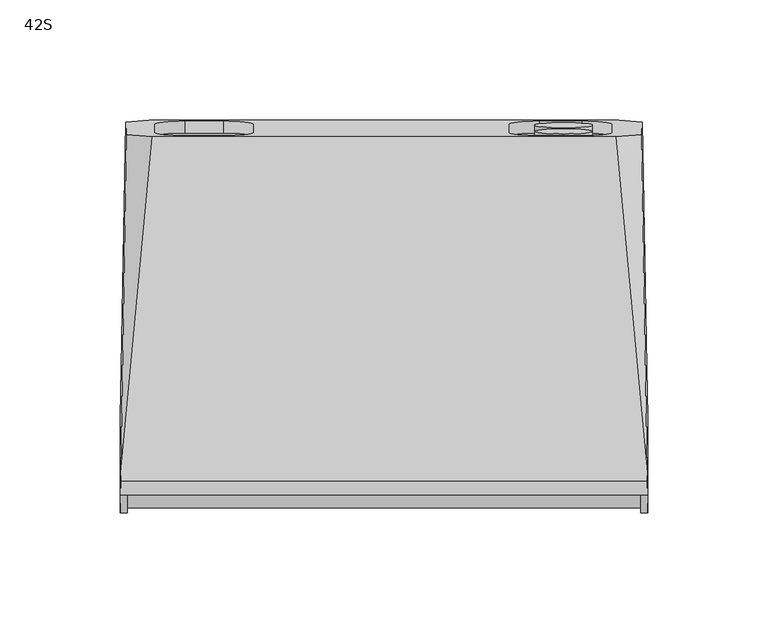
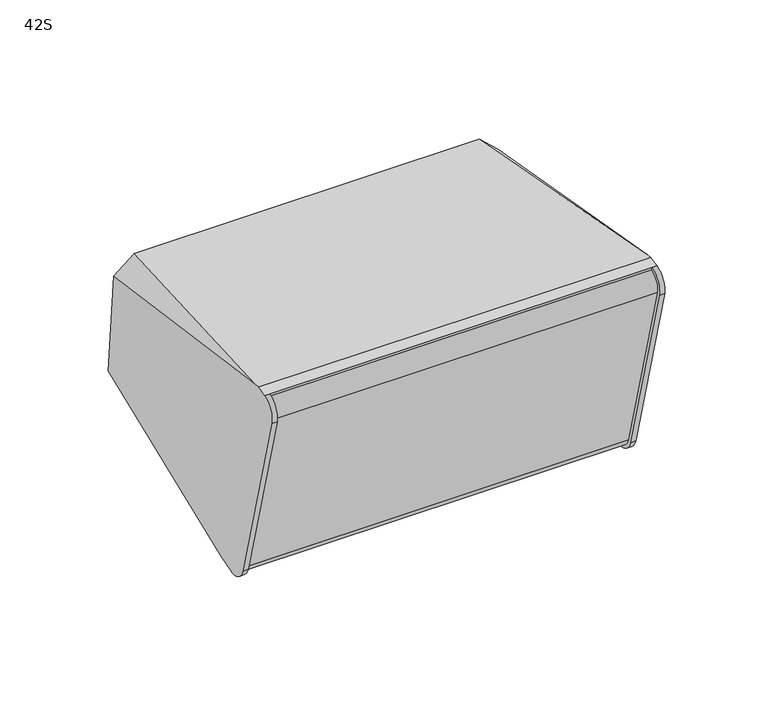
"""IFC4 building model written with IfcOpenShell, lengths in millimetres: proxy geometry, d&b xS-Series 42S Point Source : 42S."""

from ifc_helpers import new_model, si_unit, point, frame, frame_2d, origin, place, context, project, spatial, polyline, circle_curve, ellipse_curve, trimmed, segment, composite_curve, outline, extrude, source, transform, mapped, element, save
from ifc_brep_helpers import plane_surface, cylinder_surface, revolved_surface, advanced_brep


def proxy_42s_229a12bf(model_context):
    return source(origin(), model_context, "Body", "SolidModel", [
        advanced_brep(
        [(-107.0, -47.1866856, -78.9013099), (107.0, -47.1866856, -78.9013099), (107.0, -47.6930588, -77.0114994), (-107.0, -47.6930588, -77.0114994), (107.0, -57.4482683, -71.3793266), (-107.0, -57.4482683, -71.3793266), (107.0, -85.4210241, 33.0164193), (-107.0, -85.4210241, 33.0164193), (107.0, -79.7641699, 42.8143783), (-107.0, -79.7641699, 42.8143783), (107.0, -80.281808, 44.7462299), (-107.0, -80.281808, 44.7462299), (109.8273531, -80.281808, 44.7462299), (109.7253263, -74.5536839, 46.2810761), (-109.7253263, -74.5536839, 46.2810761), (-109.8273531, -80.281808, 44.7462299), (-109.8279536, -47.1866856, -78.9013099), (-109.6679034, -38.2009341, -76.493585), (-97.8946622, 76.0907905, -45.8692097), (97.8946622, 76.0907905, -45.8692097), (109.6679034, -38.2009341, -76.493585), (109.8279536, -47.1866856, -78.9013099), (96.5142171, 69.1274139, 33.7225486), (-96.5142171, 69.1274139, 33.7225486), (-109.6679034, -71.0154389, 45.9718138), (109.6679034, -71.0154389, 45.9718138), (-107.602215, 75.2163274, -35.8740511), (107.602215, 75.2163274, -35.8740511), (107.4240938, 70.0200105, 23.5201237), (-107.4240938, 70.0200105, 23.5201237), (-109.9986507, -59.3380788, -71.8856998), (-109.9993995, -87.3528758, 32.4987812), (109.9993995, -87.3528758, 32.4987812), (109.9993995, -59.38012, -71.8969646), (-107.0, -87.3528758, 32.4987812), (-107.0, -59.38012, -71.8969646), (-95.447753, 74.4246735, -26.8254051), (-82.947753, 75.5141203, -39.2778389), (-67.052247, 75.5141203, -39.2778389), (-54.552247, 74.4246735, -26.8254051), (-54.552247, 70.8002588, 14.6018448), (-67.052247, 69.710812, 27.0542786), (-82.947753, 69.710812, 27.0542786), (-95.447753, 70.8002588, 14.6018448), (52.1, 74.4246735, -26.8254051), (64.6, 75.5141203, -39.2778389), (82.4, 75.5141203, -39.2778389), (94.9, 74.4246735, -26.8254051), (94.9, 70.8002588, 14.6018448), (82.4, 69.710812, 27.0542786), (64.6, 69.710812, 27.0542786), (52.1, 70.8002588, 14.6018448), (-95.447753, 69.4437, -27.2611838), (-95.447753, 65.8192853, 14.1660661), (-82.947753, 64.7298385, 26.6184999), (-67.052247, 64.7298385, 26.6184999), (-54.552247, 65.8192853, 14.1660661), (-54.552247, 69.4437, -27.2611838), (-67.052247, 70.5331468, -39.7136176), (-82.947753, 70.5331468, -39.7136176), (52.1, 69.4437, -27.2611838), (52.1, 65.8192853, 14.1660661), (64.6, 64.7298385, 26.6184999), (82.4, 64.7298385, 26.6184999), (94.9, 65.8192853, 14.1660661), (94.9, 69.4437, -27.2611838), (82.4, 70.5331468, -39.7136176), (64.6, 70.5331468, -39.7136176), (107.0, -59.3380788, -71.8856998), (107.0, -87.3528758, 32.4987812)],
        [
            (0, 1),
            (1, 2),
            (2, 3),
            (3, 0),
            (2, 4, circle_curve(frame((107.0, -49.7545772, -69.3178082), z_axis=(-1.0, 0.0, 0.0), x_axis=(0.0, 0.25881904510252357, -0.9659258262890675)), 7.9650952)),
            (4, 5),
            (5, 3, circle_curve(frame((-107.0, -49.7545772, -69.3178082), z_axis=(1.0, 0.0, 0.0), x_axis=(0.0, 0.25881904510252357, -0.9659258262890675)), 7.9650952)),
            (4, 6),
            (6, 7),
            (7, 5),
            (6, 8, circle_curve(frame((107.0, -77.6936175, 35.0869717), z_axis=(-1.0, 0.0, 0.0), x_axis=(0.0, 0.25881904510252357, -0.9659258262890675)), 8.0)),
            (8, 9),
            (9, 7, circle_curve(frame((-107.0, -77.6936175, 35.0869717), z_axis=(1.0, 0.0, 0.0), x_axis=(0.0, 0.25881904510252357, -0.9659258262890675)), 8.0)),
            (8, 10),
            (10, 11),
            (11, 9),
            (10, 12),
            (12, 13),
            (13, 14),
            (14, 15),
            (15, 11),
            (0, 16),
            (16, 17),
            (17, 18),
            (18, 19),
            (19, 20),
            (20, 21),
            (21, 1),
            (22, 23),
            (23, 24),
            (24, 14),
            (13, 25),
            (25, 22),
            (26, 18),
            (17, 26),
            (19, 27),
            (27, 20),
            (28, 22),
            (25, 28),
            (23, 29),
            (29, 24),
            (29, 26),
            (16, 30, ellipse_curve(frame((-109.8279536, -49.7545772, -69.3178082), z_axis=(-0.999852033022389, 0.016615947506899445, 0.004452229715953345), x_axis=(-0.017202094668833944, -0.9657829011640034, -0.25878074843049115)), 9.9230392, 9.921571)),
            (30, 31),
            (31, 15, ellipse_curve(frame((-109.8273531, -77.6936175, 35.0869717), z_axis=(-0.999852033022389, 0.016615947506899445, 0.004452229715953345), x_axis=(-0.017202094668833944, -0.9657829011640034, -0.25878074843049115)), 10.0014799, 10.0)),
            (12, 32, ellipse_curve(frame((109.8273531, -77.6936175, 35.0869717), z_axis=(0.9998520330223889, 0.016615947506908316, 0.004452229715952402), x_axis=(-0.017202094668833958, 0.9657829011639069, 0.258780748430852)), 10.0014799, 10.0)),
            (32, 33),
            (33, 21, ellipse_curve(frame((109.8279536, -49.7545772, -69.3178082), z_axis=(0.9998520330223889, 0.016615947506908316, 0.004452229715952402), x_axis=(-0.017202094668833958, 0.9657829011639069, 0.258780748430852)), 9.9230392, 9.921571)),
            (27, 28),
            (11, 34, circle_curve(frame((-107.0, -77.6936175, 35.0869717), z_axis=(1.0, 0.0, 0.0), x_axis=(0.0, 0.25881904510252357, -0.9659258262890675)), 10.0)),
            (34, 35),
            (35, 0, circle_curve(frame((-107.0, -49.7545772, -69.3178082), z_axis=(1.0, 0.0, 0.0), x_axis=(0.0, 0.25881904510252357, -0.9659258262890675)), 9.921571)),
            (35, 30),
            (34, 31),
            (36, 37, circle_curve(frame((-82.947753, 74.4246735, -26.8254051), z_axis=(0.0, -0.9961946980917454, -0.08715574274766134), x_axis=(0.0, -0.08715574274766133, 0.9961946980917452)), 12.5)),
            (37, 38),
            (38, 39, circle_curve(frame((-67.052247, 74.4246735, -26.8254051), z_axis=(0.0, -0.9961946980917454, -0.08715574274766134), x_axis=(0.0, -0.08715574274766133, 0.9961946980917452)), 12.5)),
            (39, 40),
            (40, 41, circle_curve(frame((-67.052247, 70.8002588, 14.6018448), z_axis=(0.0, -0.9961946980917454, -0.08715574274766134), x_axis=(0.0, -0.08715574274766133, 0.9961946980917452)), 12.5)),
            (41, 42),
            (42, 43, circle_curve(frame((-82.947753, 70.8002588, 14.6018448), z_axis=(0.0, -0.9961946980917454, -0.08715574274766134), x_axis=(0.0, -0.08715574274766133, 0.9961946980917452)), 12.5)),
            (43, 36),
            (44, 45, circle_curve(frame((64.6, 74.4246735, -26.8254051), z_axis=(0.0, -0.9961946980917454, -0.08715574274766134), x_axis=(0.0, -0.08715574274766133, 0.9961946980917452)), 12.5)),
            (45, 46),
            (46, 47, circle_curve(frame((82.4, 74.4246735, -26.8254051), z_axis=(0.0, -0.9961946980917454, -0.08715574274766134), x_axis=(0.0, -0.08715574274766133, 0.9961946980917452)), 12.5)),
            (47, 48),
            (48, 49, circle_curve(frame((82.4, 70.8002588, 14.6018448), z_axis=(0.0, -0.9961946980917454, -0.08715574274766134), x_axis=(0.0, -0.08715574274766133, 0.9961946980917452)), 12.5)),
            (49, 50),
            (50, 51, circle_curve(frame((64.6, 70.8002588, 14.6018448), z_axis=(0.0, -0.9961946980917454, -0.08715574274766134), x_axis=(0.0, -0.08715574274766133, 0.9961946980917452)), 12.5)),
            (51, 44),
            (52, 53),
            (53, 54, circle_curve(frame((-82.947753, 65.8192853, 14.1660661), z_axis=(0.0, 0.9961946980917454, 0.08715574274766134), x_axis=(0.0, -0.08715574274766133, 0.9961946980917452)), 12.5)),
            (54, 55),
            (55, 56, circle_curve(frame((-67.052247, 65.8192853, 14.1660661), z_axis=(0.0, 0.9961946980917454, 0.08715574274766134), x_axis=(0.0, -0.08715574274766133, 0.9961946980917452)), 12.5)),
            (56, 57),
            (57, 58, circle_curve(frame((-67.052247, 69.4437, -27.2611838), z_axis=(0.0, 0.9961946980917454, 0.08715574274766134), x_axis=(0.0, -0.08715574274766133, 0.9961946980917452)), 12.5)),
            (58, 59),
            (59, 52, circle_curve(frame((-82.947753, 69.4437, -27.2611838), z_axis=(0.0, 0.9961946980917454, 0.08715574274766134), x_axis=(0.0, -0.08715574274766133, 0.9961946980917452)), 12.5)),
            (60, 61),
            (61, 62, circle_curve(frame((64.6, 65.8192853, 14.1660661), z_axis=(0.0, 0.9961946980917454, 0.08715574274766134), x_axis=(0.0, -0.08715574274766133, 0.9961946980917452)), 12.5)),
            (62, 63),
            (63, 64, circle_curve(frame((82.4, 65.8192853, 14.1660661), z_axis=(0.0, 0.9961946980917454, 0.08715574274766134), x_axis=(0.0, -0.08715574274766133, 0.9961946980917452)), 12.5)),
            (64, 65),
            (65, 66, circle_curve(frame((82.4, 69.4437, -27.2611838), z_axis=(0.0, 0.9961946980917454, 0.08715574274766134), x_axis=(0.0, -0.08715574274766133, 0.9961946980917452)), 12.5)),
            (66, 67),
            (67, 60, circle_curve(frame((64.6, 69.4437, -27.2611838), z_axis=(0.0, 0.9961946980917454, 0.08715574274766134), x_axis=(0.0, -0.08715574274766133, 0.9961946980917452)), 12.5)),
            (1, 68, circle_curve(frame((107.0, -49.7545772, -69.3178082), z_axis=(-1.0, 0.0, 0.0), x_axis=(0.0, 0.25881904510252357, -0.9659258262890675)), 9.921571)),
            (68, 69),
            (69, 10, circle_curve(frame((107.0, -77.6936175, 35.0869717), z_axis=(-1.0, 0.0, 0.0), x_axis=(0.0, 0.25881904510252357, -0.9659258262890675)), 10.0)),
            (33, 68),
            (32, 69),
            (59, 37),
            (36, 52),
            (58, 38),
            (57, 39),
            (56, 40),
            (55, 41),
            (54, 42),
            (53, 43),
            (67, 45),
            (44, 60),
            (66, 46),
            (65, 47),
            (64, 48),
            (63, 49),
            (62, 50),
            (61, 51),
        ],
        [
            plane_surface(frame((-107.0, -47.1866856, -78.9013099), z_axis=(0.0, -0.9659258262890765, -0.2588190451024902), x_axis=(1.0, 0.0, 0.0))),
            cylinder_surface(frame((107.0, -49.7545772, -69.3178082), z_axis=(-1.0, 0.0, 0.0), x_axis=(0.0, 0.25881904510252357, -0.9659258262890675)), 7.9650952),
            plane_surface(frame((-107.0, -57.4482683, -71.3793266), z_axis=(0.0, -0.9659258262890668, -0.2588190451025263), x_axis=(1.0, 0.0, 0.0))),
            cylinder_surface(frame((107.0, -77.6936175, 35.0869717), z_axis=(-1.0, 0.0, 0.0), x_axis=(0.0, 0.25881904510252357, -0.9659258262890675)), 8.0),
            plane_surface(frame((-107.0, -79.7641699, 42.8143783), z_axis=(0.0, -0.965925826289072, -0.25881904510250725), x_axis=(1.0, 0.0, 0.0))),
            plane_surface(frame((-107.0, -80.281808, 44.7462299), z_axis=(0.0, -0.25881904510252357, 0.9659258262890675), x_axis=(1.0, 0.0, 0.0))),
            plane_surface(frame((-107.0, -41.4248462, -77.3574296), z_axis=(0.0, 0.25881904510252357, -0.9659258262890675), x_axis=(1.0, 0.0, 0.0))),
            plane_surface(frame((0.0, 69.6574742, 33.6762184), z_axis=(0.0, 0.08707358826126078, 0.9962018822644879), x_axis=(-1.0, 0.0, 0.0))),
            plane_surface(frame((-103.232233, 88.2231547, -35.6118446), z_axis=(-0.7053631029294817, 0.25035388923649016, -0.6631634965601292), x_axis=(0.7071067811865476, 0.18301270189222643, -0.6830127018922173))),
            plane_surface(frame((103.232233, 88.2231547, -35.6118446), z_axis=(0.7053631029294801, 0.25035388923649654, -0.6631634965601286), x_axis=(0.7071067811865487, -0.1830127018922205, 0.6830127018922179))),
            plane_surface(frame((103.232233, 71.4091012, 27.1390575), z_axis=(0.6719558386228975, 0.126844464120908, 0.7296477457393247), x_axis=(-0.7071067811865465, -0.18301270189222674, 0.6830127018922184))),
            plane_surface(frame((-103.232233, 71.4091012, 27.1390575), z_axis=(-0.6719558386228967, 0.12684446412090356, 0.7296477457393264), x_axis=(-0.7071067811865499, 0.18301270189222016, -0.6830127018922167))),
            plane_surface(frame((-110.3665166, -119.8697317, 71.4086202), z_axis=(-0.999852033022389, 0.016615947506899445, 0.004452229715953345), x_axis=(0.0, 0.25881904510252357, -0.9659258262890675))),
            plane_surface(frame((107.2474477, 55.2451907, 118.3305223), z_axis=(0.9998520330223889, 0.016615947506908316, 0.004452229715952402), x_axis=(0.0, 0.25881904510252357, -0.9659258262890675))),
            plane_surface(frame((-107.0, -47.1866856, -78.9013099), z_axis=(1.0, 0.0, 0.0), x_axis=(0.0, 0.9659258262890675, 0.25881904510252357))),
            cylinder_surface(frame((-107.0, -49.7545772, -69.3178082), z_axis=(-1.0, 0.0, 0.0), x_axis=(0.0, 0.25881904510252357, -0.9659258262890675)), 9.921571),
            plane_surface(frame((-112.6426388, -59.38012, -71.8969646), z_axis=(0.0, -0.9659258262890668, -0.2588190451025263), x_axis=(1.0, 0.0, 0.0))),
            cylinder_surface(frame((-107.0, -77.6936175, 35.0869717), z_axis=(-1.0, 0.0, 0.0), x_axis=(0.0, 0.25881904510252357, -0.9659258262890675)), 10.0),
            plane_surface(frame((-250.0, 77.6181758, -63.3273037), z_axis=(0.0, 0.9961946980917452, 0.08715574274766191), x_axis=(1.0, 0.0, 0.0))),
            plane_surface(frame((-82.947753, 68.3542532, -14.8087501), z_axis=(0.0, 0.9961946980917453, 0.08715574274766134), x_axis=(-1.0, 0.0, 0.0))),
            plane_surface(frame((107.0, -47.1866856, -78.9013099), z_axis=(-1.0, 0.0, 0.0), x_axis=(0.0, -0.9659258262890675, -0.25881904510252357))),
            cylinder_surface(frame((113.0, -49.7545772, -69.3178082), z_axis=(-1.0, 0.0, 0.0), x_axis=(0.0, 0.25881904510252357, -0.9659258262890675)), 9.921571),
            plane_surface(frame((107.0, -59.38012, -71.8969646), z_axis=(0.0, -0.9659258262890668, -0.2588190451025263), x_axis=(1.0, 0.0, 0.0))),
            cylinder_surface(frame((113.0, -77.6936175, 35.0869717), z_axis=(-1.0, 0.0, 0.0), x_axis=(0.0, 0.25881904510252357, -0.9659258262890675)), 10.0),
            revolved_surface(polyline([(-82.947753, 68.35425321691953, -14.808750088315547), (-82.947753, 73.33522672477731, -14.37297137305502)]), (-82.947753, 74.4246735, -26.8254051), (0.0, -0.9961946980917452, -0.08715574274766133)),
            plane_surface(frame((-82.947753, 70.5331468, -39.7136176), z_axis=(0.0, -0.08715574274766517, 0.996194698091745), x_axis=(0.0, 0.996194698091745, 0.08715574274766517))),
            revolved_surface(polyline([(-67.052247, 68.35425321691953, -14.808750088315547), (-67.052247, 73.33522672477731, -14.37297137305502)]), (-67.052247, 74.4246735, -26.8254051), (0.0, -0.9961946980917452, -0.08715574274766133)),
            plane_surface(frame((-54.552247, 69.4437, -27.2611838), z_axis=(-1.0000000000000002, 0.0, 0.0), x_axis=(0.0, 0.996194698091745, 0.08715574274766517))),
            revolved_surface(polyline([(-67.052247, 64.72983850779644, 26.618499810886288), (-67.052247, 69.71081201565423, 27.054278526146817)]), (-67.052247, 70.8002588, 14.6018448), (0.0, -0.9961946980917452, -0.08715574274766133)),
            plane_surface(frame((-67.052247, 64.7298385, 26.6184999), z_axis=(0.0, 0.08715574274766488, -0.996194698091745), x_axis=(0.0, 0.996194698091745, 0.08715574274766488))),
            revolved_surface(polyline([(-82.947753, 64.72983850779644, 26.618499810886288), (-82.947753, 69.71081201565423, 27.054278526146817)]), (-82.947753, 70.8002588, 14.6018448), (0.0, -0.9961946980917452, -0.08715574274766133)),
            plane_surface(frame((-95.447753, 65.8192853, 14.1660661), z_axis=(1.0000000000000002, 0.0, 0.0), x_axis=(0.0, 0.996194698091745, 0.08715574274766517))),
            revolved_surface(polyline([(64.6, 68.35425321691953, -14.808750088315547), (64.6, 73.33522672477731, -14.37297137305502)]), (64.6, 74.4246735, -26.8254051), (0.0, -0.9961946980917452, -0.08715574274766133)),
            plane_surface(frame((64.6, 70.5331468, -39.7136176), z_axis=(0.0, -0.08715574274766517, 0.996194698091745), x_axis=(0.0, 0.996194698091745, 0.08715574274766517))),
            revolved_surface(polyline([(82.4, 68.35425321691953, -14.808750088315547), (82.4, 73.33522672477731, -14.37297137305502)]), (82.4, 74.4246735, -26.8254051), (0.0, -0.9961946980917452, -0.08715574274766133)),
            plane_surface(frame((94.9, 69.4437, -27.2611838), z_axis=(-1.0000000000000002, 0.0, 0.0), x_axis=(0.0, 0.996194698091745, 0.08715574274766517))),
            revolved_surface(polyline([(82.4, 64.72983850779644, 26.618499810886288), (82.4, 69.71081201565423, 27.054278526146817)]), (82.4, 70.8002588, 14.6018448), (0.0, -0.9961946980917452, -0.08715574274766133)),
            plane_surface(frame((82.4, 64.7298385, 26.6184999), z_axis=(0.0, 0.08715574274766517, -0.996194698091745), x_axis=(0.0, 0.996194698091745, 0.08715574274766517))),
            revolved_surface(polyline([(64.6, 64.72983850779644, 26.618499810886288), (64.6, 69.71081201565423, 27.054278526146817)]), (64.6, 70.8002588, 14.6018448), (0.0, -0.9961946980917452, -0.08715574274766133)),
            plane_surface(frame((52.1, 65.8192853, 14.1660661), z_axis=(1.0000000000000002, 0.0, 0.0), x_axis=(0.0, 0.996194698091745, 0.08715574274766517))),
        ],
        [
            (0, [[1, 2, 3, 4]]),
            (1, [[-3, 5, 6, 7]]),
            (2, [[-6, 8, 9, 10]]),
            (3, [[-9, 11, 12, 13]]),
            (4, [[-12, 14, 15, 16]]),
            (5, [[-15, 17, 18, 19, 20, 21]]),
            (6, [[-1, 22, 23, 24, 25, 26, 27, 28]]),
            (7, [[29, 30, 31, -19, 32, 33]]),
            (8, [[34, -24, 35]]),
            (9, [[-26, 36, 37]]),
            (10, [[38, -33, 39]]),
            (11, [[-30, 40, 41]]),
            (12, [[-20, -31, -41, 42, -35, -23, 43, 44, 45]]),
            (13, [[-18, 46, 47, 48, -27, -37, 49, -39, -32]]),
            (14, [[50, 51, 52, -4, -7, -10, -13, -16]]),
            (15, [[-52, 53, -43, -22]]),
            (16, [[-51, 54, -44, -53]]),
            (17, [[-50, -21, -45, -54]]),
            (18, [[-25, -34, -42, -40, -29, -38, -49, -36], [55, 56, 57, 58, 59, 60, 61, 62], [63, 64, 65, 66, 67, 68, 69, 70]]),
            (19, [[71, 72, 73, 74, 75, 76, 77, 78]]),
            (19, [[79, 80, 81, 82, 83, 84, 85, 86]]),
            (20, [[87, 88, 89, -14, -11, -8, -5, -2]]),
            (21, [[-87, -28, -48, 90]]),
            (22, [[-88, -90, -47, 91]]),
            (23, [[-89, -91, -46, -17]]),
            (24, [[-78, 92, -55, 93]]),
            (25, [[-77, 94, -56, -92]]),
            (26, [[-76, 95, -57, -94]]),
            (27, [[-75, 96, -58, -95]]),
            (28, [[-74, 97, -59, -96]]),
            (29, [[-73, 98, -60, -97]]),
            (30, [[-72, 99, -61, -98]]),
            (31, [[-71, -93, -62, -99]]),
            (32, [[-86, 100, -63, 101]]),
            (33, [[-85, 102, -64, -100]]),
            (34, [[-84, 103, -65, -102]]),
            (35, [[-83, 104, -66, -103]]),
            (36, [[-82, 105, -67, -104]]),
            (37, [[-81, 106, -68, -105]]),
            (38, [[-80, 107, -69, -106]]),
            (39, [[-79, -101, -70, -107]]),
        ],
    ),
        extrude(outline(composite_curve([segment(trimmed(circle_curve(frame_2d((0.0, -11.9999999)), 12.0), [point((0.0, -23.9999999))], [point((0.0, 0.0))], False, "CARTESIAN"), True, "CONTINUOUS"), segment(trimmed(circle_curve(frame_2d((0.0, -11.9999999)), 12.0), [point((0.0, 0.0))], [point((0.0, -23.9999999))], False, "CARTESIAN"), True, "CONTINUOUS")], self_intersect=False)), frame((74.8471384, 69.981124, -33.4039684), z_axis=(0.0, 0.9961946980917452, 0.08715574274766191), x_axis=(1.0, 0.0, 0.0)), (0.0, 0.0, 1.0), 5.0),
        extrude(outline(composite_curve([segment(trimmed(circle_curve(frame_2d((0.0, -42.0)), 12.0), [point((0.0, -54.0))], [point((0.0, -30.0))], False, "CARTESIAN"), True, "CONTINUOUS"), segment(trimmed(circle_curve(frame_2d((0.0, -42.0)), 12.0), [point((0.0, -30.0))], [point((0.0, -54.0))], False, "CARTESIAN"), True, "CONTINUOUS")], self_intersect=False)), frame((74.8471384, 69.981124, -33.4039684), z_axis=(0.0, 0.9961946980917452, 0.08715574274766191), x_axis=(1.0, 0.0, 0.0)), (0.0, 0.0, 1.0), 5.0),
    ])


if __name__ == "__main__":
    model = new_model("IFC4")
    model_context = context("Model", 3, world=origin())
    ifc_project = project(units=[si_unit("LENGTHUNIT", "METRE", prefix="MILLI")], contexts=[model_context])
    site = spatial("IfcSite", under=ifc_project)
    building = spatial("IfcBuilding", under=site)
    placement = place(None, origin())
    proxy_42s_shape = proxy_42s_229a12bf(model_context)
    element("IfcBuildingElementProxy", 1, Name="d&b xS-Series 42S Point Source : 42S", ObjectType="d&b xS-Series 42S Point Source : 42S", at=placement, inside=building, context=model_context, shape_type="MappedRepresentation", body=[
        mapped(proxy_42s_shape, transform((0.0, 0.0, 0.0), x_axis=(1.0, 0.0, 0.0), y_axis=(0.0, 1.0, 0.0), z_axis=(0.0, 0.0, 1.0))),
    ])
    save(model, "model.ifc")
